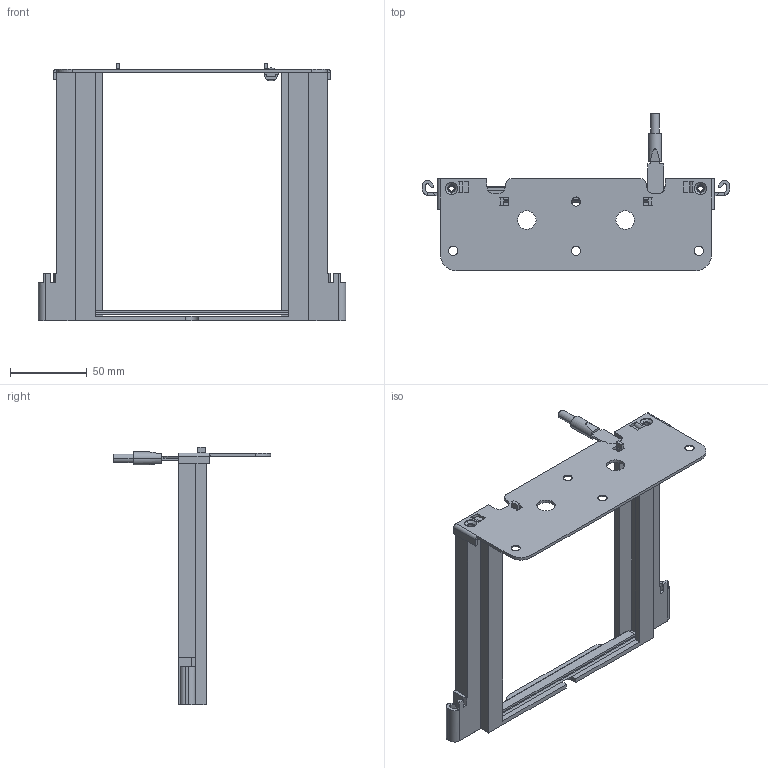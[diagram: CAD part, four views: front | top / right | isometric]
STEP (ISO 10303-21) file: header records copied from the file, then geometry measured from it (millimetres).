
FILE_DESCRIPTION (( 'STEP AP214' ), '1' );
FILE_NAME ('Kopfmontageset - F121100273207.step', '2010-10-18T11:27:51', ( 'grass' ), ( '' ), 'SwSTEP 2.0', 'SolidWorks 2010', '' );
FILE_SCHEMA (( 'AUTOMOTIVE_DESIGN' ));
Length unit declared in the file: millimetre
Products named in the file (1): Kopfmontageset - F121100273207
Bounding box: 200 x 102.5 x 167.94 mm (x, y, z)
Volume: 134241.4 mm3; surface area: 74033 mm2
Topology: 1 solids, 1 shells, 272 faces, 730 edges, 462 vertices
Faces by surface type: plane 179, cylinder 77, cone 16
Entity records: 8476 total; most frequent: CARTESIAN_POINT 1471, ORIENTED_EDGE 1460, DIRECTION 1438, EDGE_CURVE 730, LINE 564, VECTOR 564, VERTEX_POINT 462, AXIS2_PLACEMENT_3D 437
